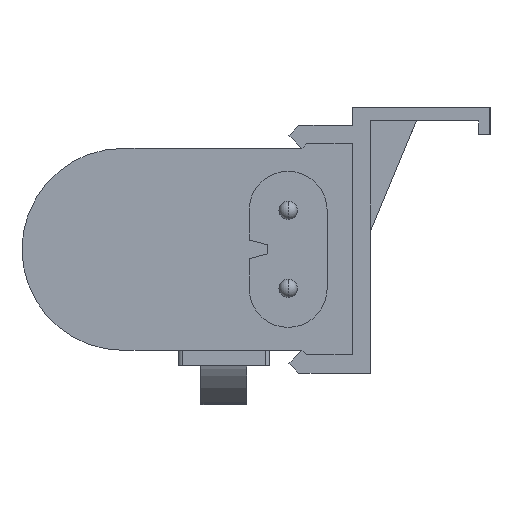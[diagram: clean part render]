
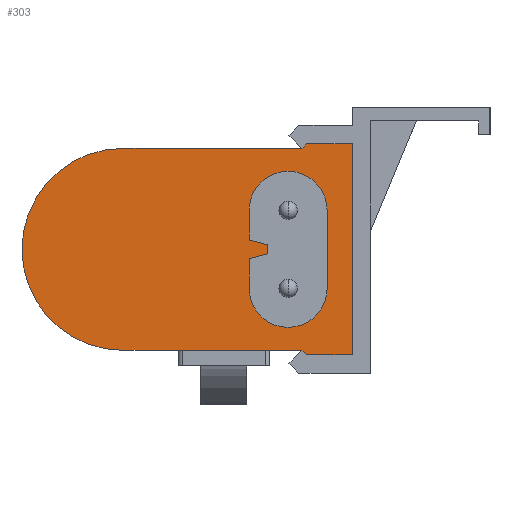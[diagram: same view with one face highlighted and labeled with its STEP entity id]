
A CAD part, left-side view. The second image highlights one B-rep face of the part: STEP entity #303.
In plain terms, the highlighted planar face has unit normal (-1, 0, 0).
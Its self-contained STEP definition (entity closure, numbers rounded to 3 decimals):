
#21 = VECTOR ( 'NONE', #5766, 1000. ) ;
#79 = DIRECTION ( 'NONE',  ( 0., 0.707, -0.707 ) ) ;
#125 = CARTESIAN_POINT ( 'NONE',  ( -278., -1.25, -4.25 ) ) ;
#166 = DIRECTION ( 'NONE',  ( 0., 0., -1. ) ) ;
#168 = CARTESIAN_POINT ( 'NONE',  ( -278., -1.25, 1. ) ) ;
#303 = ADVANCED_FACE ( 'NONE', ( #2459, #1420 ), #3402, .T. ) ;
#307 = VERTEX_POINT ( 'NONE', #3423 ) ;
#325 = LINE ( 'NONE', #4681, #1654 ) ;
#337 = ORIENTED_EDGE ( 'NONE', *, *, #2179, .T. ) ;
#348 = CARTESIAN_POINT ( 'NONE',  ( -278., -9.75, -4.25 ) ) ;
#400 = CARTESIAN_POINT ( 'NONE',  ( -278., -5.5, 8.5 ) ) ;
#406 = EDGE_LOOP ( 'NONE', ( #2793, #2723, #3665, #3600, #2815, #5833, #2888, #2264, #4707 ) ) ;
#445 = EDGE_CURVE ( 'NONE', #307, #1391, #5883, .T. ) ;
#495 = LINE ( 'NONE', #4220, #1965 ) ;
#556 = DIRECTION ( 'NONE',  ( 0., 0., -1. ) ) ;
#676 = CARTESIAN_POINT ( 'NONE',  ( -278., -12.5, -11.5 ) ) ;
#743 = ORIENTED_EDGE ( 'NONE', *, *, #4221, .T. ) ;
#772 = DIRECTION ( 'NONE',  ( 0., 0., 1. ) ) ;
#778 = CARTESIAN_POINT ( 'NONE',  ( -278., -12.5, -11.5 ) ) ;
#909 = CARTESIAN_POINT ( 'NONE',  ( -278., -12.5, 11.5 ) ) ;
#918 = DIRECTION ( 'NONE',  ( 0., 0., 1. ) ) ;
#1014 = VERTEX_POINT ( 'NONE', #4749 ) ;
#1067 = VERTEX_POINT ( 'NONE', #168 ) ;
#1079 = CARTESIAN_POINT ( 'NONE',  ( -278., 12.5, 0. ) ) ;
#1135 = LINE ( 'NONE', #3251, #2620 ) ;
#1167 = EDGE_CURVE ( 'NONE', #2803, #1532, #5927, .T. ) ;
#1182 = AXIS2_PLACEMENT_3D ( 'NONE', #2029, #5778, #5271 ) ;
#1249 = CARTESIAN_POINT ( 'NONE',  ( -278., 12.5, -11. ) ) ;
#1296 = EDGE_CURVE ( 'NONE', #2228, #3853, #3222, .T. ) ;
#1300 = CARTESIAN_POINT ( 'NONE',  ( -278., -3.25, -0.5 ) ) ;
#1391 = VERTEX_POINT ( 'NONE', #2134 ) ;
#1420 = FACE_OUTER_BOUND ( 'NONE', #5964, .T. ) ;
#1426 = VECTOR ( 'NONE', #1830, 1000. ) ;
#1532 = VERTEX_POINT ( 'NONE', #5200 ) ;
#1554 = CARTESIAN_POINT ( 'NONE',  ( -278., -7.5, 11.5 ) ) ;
#1559 = CARTESIAN_POINT ( 'NONE',  ( -278., -12.5, 0. ) ) ;
#1599 = CARTESIAN_POINT ( 'NONE',  ( -278., 12.5, 11. ) ) ;
#1654 = VECTOR ( 'NONE', #3358, 1000. ) ;
#1687 = EDGE_CURVE ( 'NONE', #3493, #2537, #4318, .T. ) ;
#1693 = CARTESIAN_POINT ( 'NONE',  ( -278., -3.25, 0.5 ) ) ;
#1718 = VECTOR ( 'NONE', #5037, 1000. ) ;
#1761 = ORIENTED_EDGE ( 'NONE', *, *, #5808, .T. ) ;
#1825 = DIRECTION ( 'NONE',  ( 0., 1., 0. ) ) ;
#1830 = DIRECTION ( 'NONE',  ( 0., 1., 0. ) ) ;
#1965 = VECTOR ( 'NONE', #79, 1000. ) ;
#2029 = CARTESIAN_POINT ( 'NONE',  ( -278., 0., 0. ) ) ;
#2060 = VERTEX_POINT ( 'NONE', #1693 ) ;
#2107 = LINE ( 'NONE', #4394, #3185 ) ;
#2126 = VERTEX_POINT ( 'NONE', #1249 ) ;
#2134 = CARTESIAN_POINT ( 'NONE',  ( -278., -7.5, -11.5 ) ) ;
#2179 = EDGE_CURVE ( 'NONE', #3732, #2478, #5596, .T. ) ;
#2195 = DIRECTION ( 'NONE',  ( -1., 0., 0. ) ) ;
#2228 = VERTEX_POINT ( 'NONE', #4598 ) ;
#2264 = ORIENTED_EDGE ( 'NONE', *, *, #4823, .F. ) ;
#2288 = ORIENTED_EDGE ( 'NONE', *, *, #445, .T. ) ;
#2341 = EDGE_CURVE ( 'NONE', #1532, #2228, #5085, .T. ) ;
#2384 = VERTEX_POINT ( 'NONE', #1554 ) ;
#2405 = DIRECTION ( 'NONE',  ( -1., 0., 0. ) ) ;
#2459 = FACE_BOUND ( 'NONE', #406, .T. ) ;
#2469 = CARTESIAN_POINT ( 'NONE',  ( -278., -3.25, 0.5 ) ) ;
#2478 = VERTEX_POINT ( 'NONE', #1599 ) ;
#2492 = CARTESIAN_POINT ( 'NONE',  ( -278., -1.25, 1. ) ) ;
#2537 = VERTEX_POINT ( 'NONE', #676 ) ;
#2555 = AXIS2_PLACEMENT_3D ( 'NONE', #5423, #2195, #772 ) ;
#2620 = VECTOR ( 'NONE', #5556, 1000. ) ;
#2723 = ORIENTED_EDGE ( 'NONE', *, *, #4074, .F. ) ;
#2730 = VERTEX_POINT ( 'NONE', #5029 ) ;
#2793 = ORIENTED_EDGE ( 'NONE', *, *, #4731, .F. ) ;
#2800 = AXIS2_PLACEMENT_3D ( 'NONE', #3287, #4224, #918 ) ;
#2803 = VERTEX_POINT ( 'NONE', #3723 ) ;
#2815 = ORIENTED_EDGE ( 'NONE', *, *, #1167, .F. ) ;
#2819 = DIRECTION ( 'NONE',  ( 0., 0., 1. ) ) ;
#2827 = EDGE_CURVE ( 'NONE', #2384, #3732, #495, .T. ) ;
#2865 = LINE ( 'NONE', #2469, #5726 ) ;
#2888 = ORIENTED_EDGE ( 'NONE', *, *, #5573, .F. ) ;
#2900 = LINE ( 'NONE', #778, #3690 ) ;
#2999 = CARTESIAN_POINT ( 'NONE',  ( -278., -7., 11. ) ) ;
#3061 = DIRECTION ( 'NONE',  ( 0., -0.707, -0.707 ) ) ;
#3092 = EDGE_CURVE ( 'NONE', #3953, #1014, #4354, .T. ) ;
#3185 = VECTOR ( 'NONE', #4886, 1000. ) ;
#3222 = CIRCLE ( 'NONE', #2800, 4.25 ) ;
#3251 = CARTESIAN_POINT ( 'NONE',  ( -278., -12.5, 11.5 ) ) ;
#3287 = CARTESIAN_POINT ( 'NONE',  ( -278., -5.5, -4.25 ) ) ;
#3358 = DIRECTION ( 'NONE',  ( 0., 0., 1. ) ) ;
#3402 = PLANE ( 'NONE',  #1182 ) ;
#3403 = AXIS2_PLACEMENT_3D ( 'NONE', #1079, #5294, #5718 ) ;
#3423 = CARTESIAN_POINT ( 'NONE',  ( -278., -7., -11. ) ) ;
#3493 = VERTEX_POINT ( 'NONE', #909 ) ;
#3600 = ORIENTED_EDGE ( 'NONE', *, *, #2341, .F. ) ;
#3607 = LINE ( 'NONE', #4625, #1426 ) ;
#3665 = ORIENTED_EDGE ( 'NONE', *, *, #1296, .F. ) ;
#3690 = VECTOR ( 'NONE', #4039, 1000. ) ;
#3723 = CARTESIAN_POINT ( 'NONE',  ( -278., -3.25, -0.5 ) ) ;
#3732 = VERTEX_POINT ( 'NONE', #2999 ) ;
#3811 = ORIENTED_EDGE ( 'NONE', *, *, #1687, .F. ) ;
#3853 = VERTEX_POINT ( 'NONE', #348 ) ;
#3880 = VECTOR ( 'NONE', #556, 1000. ) ;
#3953 = VERTEX_POINT ( 'NONE', #400 ) ;
#3998 = EDGE_CURVE ( 'NONE', #307, #2126, #3607, .T. ) ;
#4039 = DIRECTION ( 'NONE',  ( 0., -1., 0. ) ) ;
#4074 = EDGE_CURVE ( 'NONE', #3853, #2730, #325, .T. ) ;
#4220 = CARTESIAN_POINT ( 'NONE',  ( -278., -7.5, 11.5 ) ) ;
#4221 = EDGE_CURVE ( 'NONE', #2478, #2126, #4260, .T. ) ;
#4224 = DIRECTION ( 'NONE',  ( -1., 0., 0. ) ) ;
#4260 = CIRCLE ( 'NONE', #3403, 11. ) ;
#4276 = ORIENTED_EDGE ( 'NONE', *, *, #5645, .T. ) ;
#4318 = LINE ( 'NONE', #1559, #21 ) ;
#4333 = AXIS2_PLACEMENT_3D ( 'NONE', #5149, #2405, #2819 ) ;
#4354 = CIRCLE ( 'NONE', #2555, 4.25 ) ;
#4394 = CARTESIAN_POINT ( 'NONE',  ( -278., -1.25, 1. ) ) ;
#4457 = CARTESIAN_POINT ( 'NONE',  ( -278., -7.5, -11.5 ) ) ;
#4507 = CARTESIAN_POINT ( 'NONE',  ( -278., 0., 11. ) ) ;
#4598 = CARTESIAN_POINT ( 'NONE',  ( -278., -1.25, -4.25 ) ) ;
#4625 = CARTESIAN_POINT ( 'NONE',  ( -278., 0., -11. ) ) ;
#4681 = CARTESIAN_POINT ( 'NONE',  ( -278., -9.75, 4.25 ) ) ;
#4707 = ORIENTED_EDGE ( 'NONE', *, *, #3092, .F. ) ;
#4731 = EDGE_CURVE ( 'NONE', #2730, #3953, #4770, .T. ) ;
#4749 = CARTESIAN_POINT ( 'NONE',  ( -278., -1.25, 4.25 ) ) ;
#4770 = CIRCLE ( 'NONE', #4333, 4.25 ) ;
#4823 = EDGE_CURVE ( 'NONE', #1014, #1067, #5504, .T. ) ;
#4881 = EDGE_CURVE ( 'NONE', #2060, #2803, #2865, .T. ) ;
#4886 = DIRECTION ( 'NONE',  ( 0., -0.97, -0.243 ) ) ;
#5029 = CARTESIAN_POINT ( 'NONE',  ( -278., -9.75, 4.25 ) ) ;
#5037 = DIRECTION ( 'NONE',  ( 0., 0.97, -0.243 ) ) ;
#5085 = LINE ( 'NONE', #125, #5752 ) ;
#5149 = CARTESIAN_POINT ( 'NONE',  ( -278., -5.5, 4.25 ) ) ;
#5200 = CARTESIAN_POINT ( 'NONE',  ( -278., -1.25, -1. ) ) ;
#5224 = ORIENTED_EDGE ( 'NONE', *, *, #2827, .T. ) ;
#5266 = ORIENTED_EDGE ( 'NONE', *, *, #3998, .F. ) ;
#5271 = DIRECTION ( 'NONE',  ( 0., 0., -1. ) ) ;
#5294 = DIRECTION ( 'NONE',  ( -1., 0., 0. ) ) ;
#5307 = DIRECTION ( 'NONE',  ( 0., 0., -1. ) ) ;
#5396 = VECTOR ( 'NONE', #1825, 1000. ) ;
#5423 = CARTESIAN_POINT ( 'NONE',  ( -278., -5.5, 4.25 ) ) ;
#5448 = VECTOR ( 'NONE', #3061, 1000. ) ;
#5504 = LINE ( 'NONE', #2492, #3880 ) ;
#5556 = DIRECTION ( 'NONE',  ( 0., 1., 0. ) ) ;
#5573 = EDGE_CURVE ( 'NONE', #1067, #2060, #2107, .T. ) ;
#5596 = LINE ( 'NONE', #4507, #5396 ) ;
#5645 = EDGE_CURVE ( 'NONE', #1391, #2537, #2900, .T. ) ;
#5718 = DIRECTION ( 'NONE',  ( 0., 0., -1. ) ) ;
#5726 = VECTOR ( 'NONE', #5307, 1000. ) ;
#5752 = VECTOR ( 'NONE', #166, 1000. ) ;
#5766 = DIRECTION ( 'NONE',  ( 0., 0., -1. ) ) ;
#5778 = DIRECTION ( 'NONE',  ( -1., 0., 0. ) ) ;
#5808 = EDGE_CURVE ( 'NONE', #3493, #2384, #1135, .T. ) ;
#5833 = ORIENTED_EDGE ( 'NONE', *, *, #4881, .F. ) ;
#5883 = LINE ( 'NONE', #4457, #5448 ) ;
#5927 = LINE ( 'NONE', #1300, #1718 ) ;
#5964 = EDGE_LOOP ( 'NONE', ( #743, #5266, #2288, #4276, #3811, #1761, #5224, #337 ) ) ;
